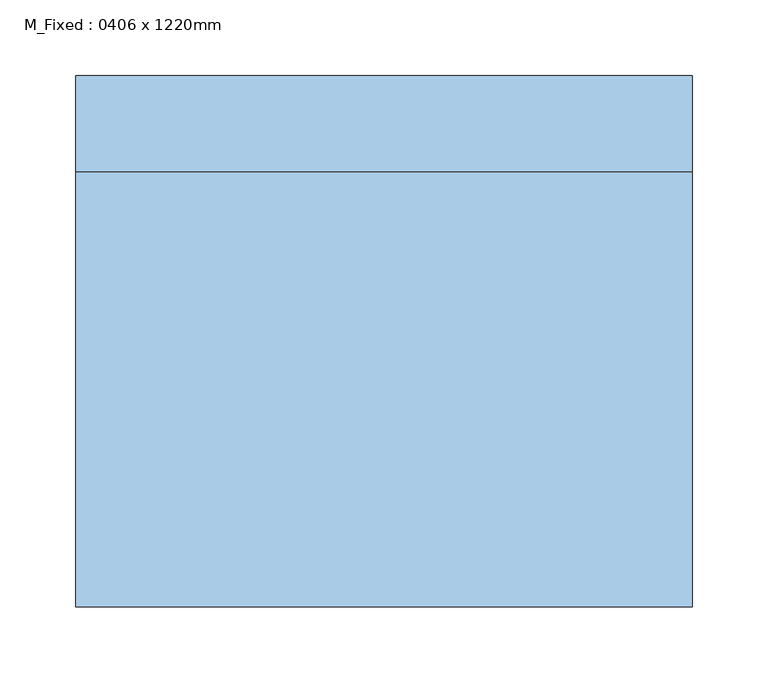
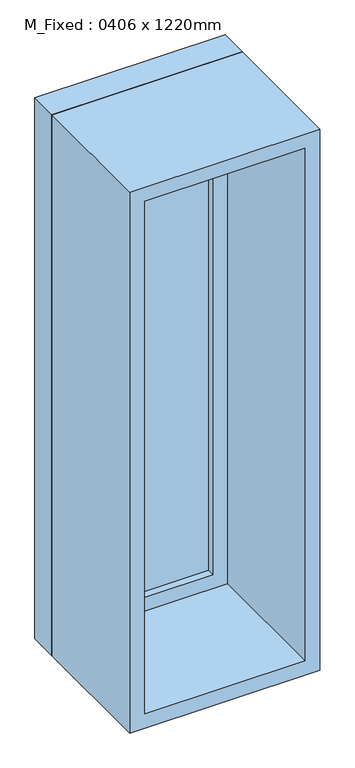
"""IFC4 building model written with IfcOpenShell, lengths in millimetres: window geometry, M_Fixed : 0406 x 1220mm."""

from ifc_helpers import new_model, si_unit, frame, origin, place, context, project, spatial, polyline, outline, extrude, source, transform, mapped, element, save


def m_fixed_0406_x_1220mm_57fee329(model_context):
    return source(origin(), model_context, "Body", "SweptSolid", [
        extrude(outline(polyline([(-140.0, 153.0), (140.0, 153.0), (140.0, 141.0), (-140.0, 141.0), (-140.0, 153.0)])), frame((0.0, 0.0, 978.0), z_axis=(0.0, 0.0, 1.0), x_axis=(1.0, 0.0, 0.0)), (0.0, 0.0, 1.0), 1094.0),
        extrude(outline(polyline([(2116.0, -184.0), (934.0, -184.0), (934.0, 184.0), (2116.0, 184.0), (2116.0, -184.0)]), holes=[polyline([(2072.0, -140.0), (2072.0, 140.0), (978.0, 140.0), (978.0, -140.0), (2072.0, -140.0)])]), frame((0.0, 125.0, 0.0), z_axis=(0.0, 1.0, 0.0), x_axis=(0.0, 0.0, 1.0)), (0.0, 0.0, 1.0), 44.0),
        extrude(outline(polyline([(2135.0, -203.0), (915.0, -203.0), (915.0, 203.0), (2135.0, 203.0), (2135.0, -203.0)]), holes=[polyline([(2116.0, -184.0), (2116.0, 184.0), (934.0, 184.0), (934.0, -184.0), (2116.0, -184.0)])]), frame((0.0, 125.0, 0.0), z_axis=(0.0, 1.0, 0.0), x_axis=(0.0, 0.0, 1.0)), (0.0, 0.0, 1.0), 63.0),
        extrude(outline(polyline([(2135.0, -203.0), (915.0, -203.0), (915.0, 203.0), (2135.0, 203.0), (2135.0, -203.0)]), holes=[polyline([(2103.0, -171.0), (2103.0, 171.0), (947.0, 171.0), (947.0, -171.0), (2103.0, -171.0)])]), frame((0.0, -162.0, 0.0), z_axis=(0.0, 1.0, 0.0), x_axis=(0.0, 0.0, 1.0)), (0.0, 0.0, 1.0), 287.0),
    ])


if __name__ == "__main__":
    model = new_model("IFC4")
    model_context = context("Model", 3, world=origin())
    ifc_project = project(units=[si_unit("LENGTHUNIT", "METRE", prefix="MILLI")], contexts=[model_context])
    site = spatial("IfcSite", under=ifc_project)
    building = spatial("IfcBuilding", under=site)
    placement = place(None, origin())
    m_fixed_0406_x_1220mm_shape = m_fixed_0406_x_1220mm_57fee329(model_context)
    element("IfcWindow", 1, ObjectType="M_Fixed : 0406 x 1220mm", at=placement, inside=building, context=model_context, shape_type="MappedRepresentation", body=[
        mapped(m_fixed_0406_x_1220mm_shape, transform((0.0, 0.0, 0.0), x_axis=(1.0, 0.0, 0.0), y_axis=(0.0, 1.0, 0.0), z_axis=(0.0, 0.0, 1.0))),
    ])
    save(model, "model.ifc")
